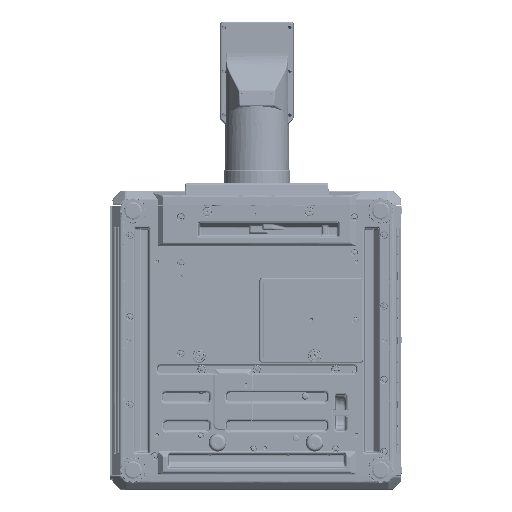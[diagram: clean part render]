
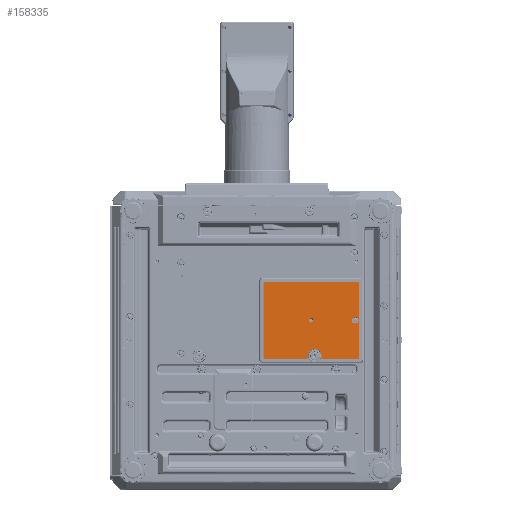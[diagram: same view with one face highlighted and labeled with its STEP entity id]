
A CAD part, front view. The second image highlights one B-rep face of the part: STEP entity #158335.
In plain terms, the highlighted planar face has unit normal (0, -1, 0).
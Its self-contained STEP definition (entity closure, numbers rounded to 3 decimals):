
#4687=ELLIPSE('',#344842,1.504,1.5);
#4688=ELLIPSE('',#344843,1.504,1.5);
#4689=ELLIPSE('',#344845,1.504,1.5);
#4690=ELLIPSE('',#344846,1.504,1.5);
#17971=B_SPLINE_CURVE_WITH_KNOTS('',3,(#526963,#526964,#526965,#526966,
#526967,#526968,#526969,#526970,#526971,#526972,#526973,#526974,#526975,
#526976,#526977,#526978,#526979,#526980,#526981),.UNSPECIFIED.,.F.,.F.,
(4,3,3,3,3,3,4),(0.,0.054,0.243,0.432,
0.621,0.811,1.),.UNSPECIFIED.);
#17972=B_SPLINE_CURVE_WITH_KNOTS('',3,(#526985,#526986,#526987,#526988,
#526989,#526990,#526991,#526992,#526993,#526994,#526995,#526996,#526997,
#526998,#526999,#527000,#527001,#527002,#527003),.UNSPECIFIED.,.F.,.F.,
(4,3,3,3,3,3,4),(0.,0.054,0.243,0.432,
0.621,0.811,1.),.UNSPECIFIED.);
#38547=LINE('',#526952,#63813);
#38548=LINE('',#526957,#63814);
#38549=LINE('',#526961,#63815);
#38550=LINE('',#527005,#63816);
#38551=LINE('',#527009,#63817);
#63813=VECTOR('',#408407,1.);
#63814=VECTOR('',#408410,1.);
#63815=VECTOR('',#408413,1.);
#63816=VECTOR('',#408416,1.);
#63817=VECTOR('',#408419,1.);
#158335=ADVANCED_FACE('',(#167153,#167154,#167155),#164327,.F.);
#164327=PLANE('',#344847);
#167153=FACE_BOUND('',#176782,.T.);
#167154=FACE_BOUND('',#176783,.T.);
#167155=FACE_BOUND('',#176784,.T.);
#176782=EDGE_LOOP('',(#222711));
#176783=EDGE_LOOP('',(#222712));
#176784=EDGE_LOOP('',(#222713,#222714,#222715,#222716,#222717,#222718,#222719,
#222720,#222721,#222722,#222723,#222724));
#222711=ORIENTED_EDGE('',*,*,#306805,.T.);
#222712=ORIENTED_EDGE('',*,*,#306806,.T.);
#222713=ORIENTED_EDGE('',*,*,#306807,.T.);
#222714=ORIENTED_EDGE('',*,*,#306808,.T.);
#222715=ORIENTED_EDGE('',*,*,#306809,.T.);
#222716=ORIENTED_EDGE('',*,*,#306810,.T.);
#222717=ORIENTED_EDGE('',*,*,#306811,.T.);
#222718=ORIENTED_EDGE('',*,*,#306812,.T.);
#222719=ORIENTED_EDGE('',*,*,#306813,.T.);
#222720=ORIENTED_EDGE('',*,*,#306814,.T.);
#222721=ORIENTED_EDGE('',*,*,#306815,.T.);
#222722=ORIENTED_EDGE('',*,*,#306816,.T.);
#222723=ORIENTED_EDGE('',*,*,#306817,.T.);
#222724=ORIENTED_EDGE('',*,*,#306818,.T.);
#263681=VERTEX_POINT('',#526948);
#263682=VERTEX_POINT('',#526951);
#263683=VERTEX_POINT('',#526953);
#263684=VERTEX_POINT('',#526954);
#263685=VERTEX_POINT('',#526956);
#263686=VERTEX_POINT('',#526958);
#263687=VERTEX_POINT('',#526960);
#263688=VERTEX_POINT('',#526962);
#263689=VERTEX_POINT('',#526982);
#263690=VERTEX_POINT('',#526984);
#263691=VERTEX_POINT('',#527004);
#263692=VERTEX_POINT('',#527006);
#263693=VERTEX_POINT('',#527008);
#263694=VERTEX_POINT('',#527010);
#306805=EDGE_CURVE('',#263681,#263681,#323715,.T.);
#306806=EDGE_CURVE('',#263682,#263682,#323716,.T.);
#306807=EDGE_CURVE('',#263683,#263684,#38547,.T.);
#306808=EDGE_CURVE('',#263684,#263685,#4687,.T.);
#306809=EDGE_CURVE('',#263685,#263686,#38548,.T.);
#306810=EDGE_CURVE('',#263686,#263687,#4688,.T.);
#306811=EDGE_CURVE('',#263687,#263688,#38549,.T.);
#306812=EDGE_CURVE('',#263688,#263689,#17971,.T.);
#306813=EDGE_CURVE('',#263689,#263690,#323717,.T.);
#306814=EDGE_CURVE('',#263690,#263691,#17972,.T.);
#306815=EDGE_CURVE('',#263691,#263692,#38550,.T.);
#306816=EDGE_CURVE('',#263692,#263693,#4689,.T.);
#306817=EDGE_CURVE('',#263693,#263694,#38551,.T.);
#306818=EDGE_CURVE('',#263694,#263683,#4690,.T.);
#323715=CIRCLE('',#344839,4.);
#323716=CIRCLE('',#344841,6.125);
#323717=CIRCLE('',#344844,13.358);
#344839=AXIS2_PLACEMENT_3D('',#526947,#408401,#408402);
#344841=AXIS2_PLACEMENT_3D('',#526950,#408405,#408406);
#344842=AXIS2_PLACEMENT_3D('',#526955,#408408,#408409);
#344843=AXIS2_PLACEMENT_3D('',#526959,#408411,#408412);
#344844=AXIS2_PLACEMENT_3D('',#526983,#408414,#408415);
#344845=AXIS2_PLACEMENT_3D('',#527007,#408417,#408418);
#344846=AXIS2_PLACEMENT_3D('',#527011,#408420,#408421);
#344847=AXIS2_PLACEMENT_3D('',#527012,#408422,#408423);
#408401=DIRECTION('',(0.,1.,0.));
#408402=DIRECTION('',(0.,0.,1.));
#408405=DIRECTION('',(0.,1.,0.));
#408406=DIRECTION('',(0.,0.,1.));
#408407=DIRECTION('',(-1.,0.,0.));
#408408=DIRECTION('',(0.,-1.,0.));
#408409=DIRECTION('',(0.707,0.,-0.707));
#408410=DIRECTION('',(0.,0.,-1.));
#408411=DIRECTION('',(0.,-1.,0.));
#408412=DIRECTION('',(-0.707,0.,-0.707));
#408413=DIRECTION('',(1.,0.,0.));
#408414=DIRECTION('',(0.,1.,0.));
#408415=DIRECTION('',(0.,0.,1.));
#408416=DIRECTION('',(1.,0.,0.));
#408417=DIRECTION('',(0.,-1.,0.));
#408418=DIRECTION('',(-0.707,0.,0.707));
#408419=DIRECTION('',(0.,0.,1.));
#408420=DIRECTION('',(0.,-1.,0.));
#408421=DIRECTION('',(-0.707,0.,-0.707));
#408422=DIRECTION('',(0.,1.,0.));
#408423=DIRECTION('',(0.,0.,1.));
#526947=CARTESIAN_POINT('',(103.8,-116.5,-1.5));
#526948=CARTESIAN_POINT('',(103.8,-116.5,2.5));
#526950=CARTESIAN_POINT('',(187.8,-116.5,-1.5));
#526951=CARTESIAN_POINT('',(187.8,-116.5,4.625));
#526952=CARTESIAN_POINT('',(110.,-116.5,71.642));
#526953=CARTESIAN_POINT('',(193.644,-116.5,71.642));
#526954=CARTESIAN_POINT('',(14.356,-116.5,71.642));
#526955=CARTESIAN_POINT('',(14.36,-116.5,70.14));
#526956=CARTESIAN_POINT('',(12.858,-116.5,70.144));
#526957=CARTESIAN_POINT('',(12.858,-116.5,-70.));
#526958=CARTESIAN_POINT('',(12.858,-116.5,-73.144));
#526959=CARTESIAN_POINT('',(14.36,-116.5,-73.14));
#526960=CARTESIAN_POINT('',(14.356,-116.5,-74.642));
#526961=CARTESIAN_POINT('',(110.,-116.5,-74.642));
#526962=CARTESIAN_POINT('',(95.481,-116.5,-74.642));
#526963=CARTESIAN_POINT('',(95.481,-116.5,-74.642));
#526964=CARTESIAN_POINT('',(95.529,-116.5,-74.642));
#526965=CARTESIAN_POINT('',(95.578,-116.5,-74.64));
#526966=CARTESIAN_POINT('',(95.627,-116.5,-74.635));
#526967=CARTESIAN_POINT('',(95.794,-116.5,-74.619));
#526968=CARTESIAN_POINT('',(95.96,-116.5,-74.574));
#526969=CARTESIAN_POINT('',(96.112,-116.5,-74.503));
#526970=CARTESIAN_POINT('',(96.264,-116.5,-74.433));
#526971=CARTESIAN_POINT('',(96.405,-116.5,-74.335));
#526972=CARTESIAN_POINT('',(96.525,-116.5,-74.219));
#526973=CARTESIAN_POINT('',(96.645,-116.5,-74.102));
#526974=CARTESIAN_POINT('',(96.747,-116.5,-73.963));
#526975=CARTESIAN_POINT('',(96.822,-116.5,-73.813));
#526976=CARTESIAN_POINT('',(96.897,-116.5,-73.662));
#526977=CARTESIAN_POINT('',(96.947,-116.5,-73.497));
#526978=CARTESIAN_POINT('',(96.967,-116.5,-73.33));
#526979=CARTESIAN_POINT('',(96.988,-116.5,-73.164));
#526980=CARTESIAN_POINT('',(96.98,-116.5,-72.991));
#526981=CARTESIAN_POINT('',(96.945,-116.5,-72.827));
#526982=CARTESIAN_POINT('',(96.945,-116.5,-72.827));
#526983=CARTESIAN_POINT('',(110.,-116.5,-70.));
#526984=CARTESIAN_POINT('',(123.055,-116.5,-72.827));
#526985=CARTESIAN_POINT('',(123.055,-116.5,-72.827));
#526986=CARTESIAN_POINT('',(123.045,-116.5,-72.875));
#526987=CARTESIAN_POINT('',(123.037,-116.5,-72.923));
#526988=CARTESIAN_POINT('',(123.031,-116.5,-72.972));
#526989=CARTESIAN_POINT('',(123.012,-116.5,-73.138));
#526990=CARTESIAN_POINT('',(123.021,-116.5,-73.31));
#526991=CARTESIAN_POINT('',(123.058,-116.5,-73.473));
#526992=CARTESIAN_POINT('',(123.094,-116.5,-73.637));
#526993=CARTESIAN_POINT('',(123.159,-116.5,-73.796));
#526994=CARTESIAN_POINT('',(123.248,-116.5,-73.938));
#526995=CARTESIAN_POINT('',(123.337,-116.5,-74.08));
#526996=CARTESIAN_POINT('',(123.451,-116.5,-74.209));
#526997=CARTESIAN_POINT('',(123.582,-116.5,-74.313));
#526998=CARTESIAN_POINT('',(123.713,-116.5,-74.418));
#526999=CARTESIAN_POINT('',(123.864,-116.5,-74.502));
#527000=CARTESIAN_POINT('',(124.023,-116.5,-74.558));
#527001=CARTESIAN_POINT('',(124.181,-116.5,-74.613));
#527002=CARTESIAN_POINT('',(124.351,-116.5,-74.642));
#527003=CARTESIAN_POINT('',(124.519,-116.5,-74.642));
#527004=CARTESIAN_POINT('',(124.519,-116.5,-74.642));
#527005=CARTESIAN_POINT('',(110.,-116.5,-74.642));
#527006=CARTESIAN_POINT('',(193.644,-116.5,-74.642));
#527007=CARTESIAN_POINT('',(193.64,-116.5,-73.14));
#527008=CARTESIAN_POINT('',(195.142,-116.5,-73.144));
#527009=CARTESIAN_POINT('',(195.142,-116.5,-70.));
#527010=CARTESIAN_POINT('',(195.142,-116.5,70.144));
#527011=CARTESIAN_POINT('',(193.64,-116.5,70.14));
#527012=CARTESIAN_POINT('',(110.,-116.5,-70.));
